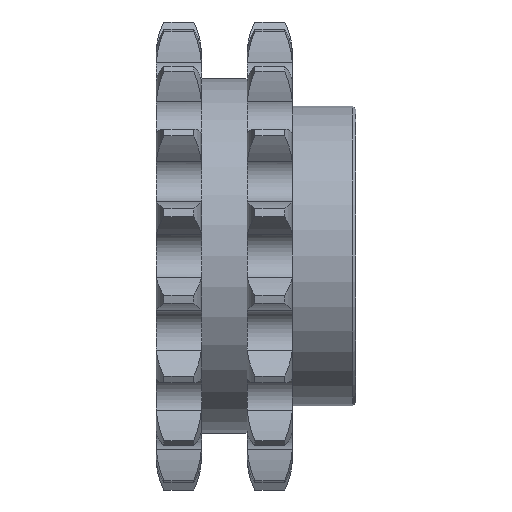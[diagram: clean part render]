
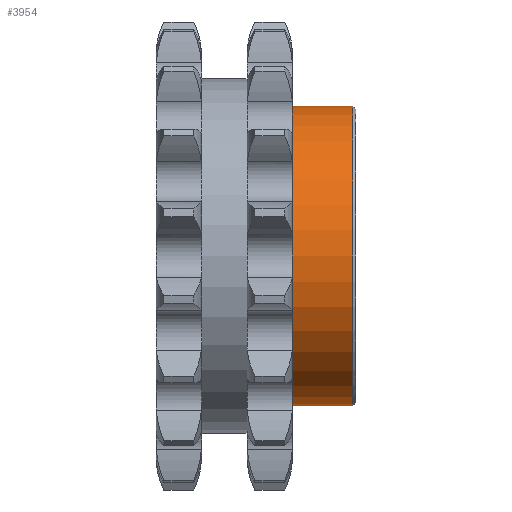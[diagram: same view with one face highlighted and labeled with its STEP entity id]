
A CAD part, front view. The second image highlights one B-rep face of the part: STEP entity #3954.
In plain terms, the highlighted cylindrical face has radius 60 mm (diameter 120 mm), a full revolution.
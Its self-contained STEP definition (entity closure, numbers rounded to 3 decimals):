
#178=CIRCLE('',#4169,60.);
#296=CIRCLE('',#4391,60.);
#297=CIRCLE('',#4392,60.);
#514=FACE_OUTER_BOUND('',#732,.T.);
#732=EDGE_LOOP('',(#3486,#3487,#3488,#3489,#3490));
#884=LINE('',#7970,#1026);
#1026=VECTOR('',#5374,60.);
#1689=VERTEX_POINT('',#7613);
#1713=VERTEX_POINT('',#7959);
#1714=VERTEX_POINT('',#7960);
#2189=EDGE_CURVE('',#1689,#1689,#178,.T.);
#2331=EDGE_CURVE('',#1713,#1714,#296,.T.);
#2332=EDGE_CURVE('',#1714,#1713,#297,.T.);
#2336=EDGE_CURVE('',#1689,#1714,#884,.T.);
#3486=ORIENTED_EDGE('',*,*,#2189,.F.);
#3487=ORIENTED_EDGE('',*,*,#2336,.T.);
#3488=ORIENTED_EDGE('',*,*,#2331,.F.);
#3489=ORIENTED_EDGE('',*,*,#2332,.F.);
#3490=ORIENTED_EDGE('',*,*,#2336,.F.);
#3747=CYLINDRICAL_SURFACE('',#4396,60.);
#3954=ADVANCED_FACE('',(#514),#3747,.T.);
#4169=AXIS2_PLACEMENT_3D('',#7614,#4909,#4910);
#4391=AXIS2_PLACEMENT_3D('',#7961,#5361,#5362);
#4392=AXIS2_PLACEMENT_3D('',#7962,#5363,#5364);
#4396=AXIS2_PLACEMENT_3D('',#7969,#5372,#5373);
#4909=DIRECTION('center_axis',(-1.,0.,0.));
#4910=DIRECTION('ref_axis',(0.,0.,1.));
#5361=DIRECTION('center_axis',(1.,0.,0.));
#5362=DIRECTION('ref_axis',(0.,-1.,0.));
#5363=DIRECTION('center_axis',(1.,0.,0.));
#5364=DIRECTION('ref_axis',(0.,-1.,0.));
#5372=DIRECTION('center_axis',(-1.,0.,0.));
#5373=DIRECTION('ref_axis',(0.,1.,0.));
#5374=DIRECTION('',(1.,0.,0.));
#7613=CARTESIAN_POINT('',(-25.4,-60.,0.));
#7614=CARTESIAN_POINT('Origin',(-25.4,0.,0.));
#7959=CARTESIAN_POINT('',(-1.2,60.,0.));
#7960=CARTESIAN_POINT('',(-1.2,-60.,0.));
#7961=CARTESIAN_POINT('Origin',(-1.2,0.,0.));
#7962=CARTESIAN_POINT('Origin',(-1.2,0.,0.));
#7969=CARTESIAN_POINT('Origin',(-12.7,0.,0.));
#7970=CARTESIAN_POINT('',(-12.7,-60.,0.));
